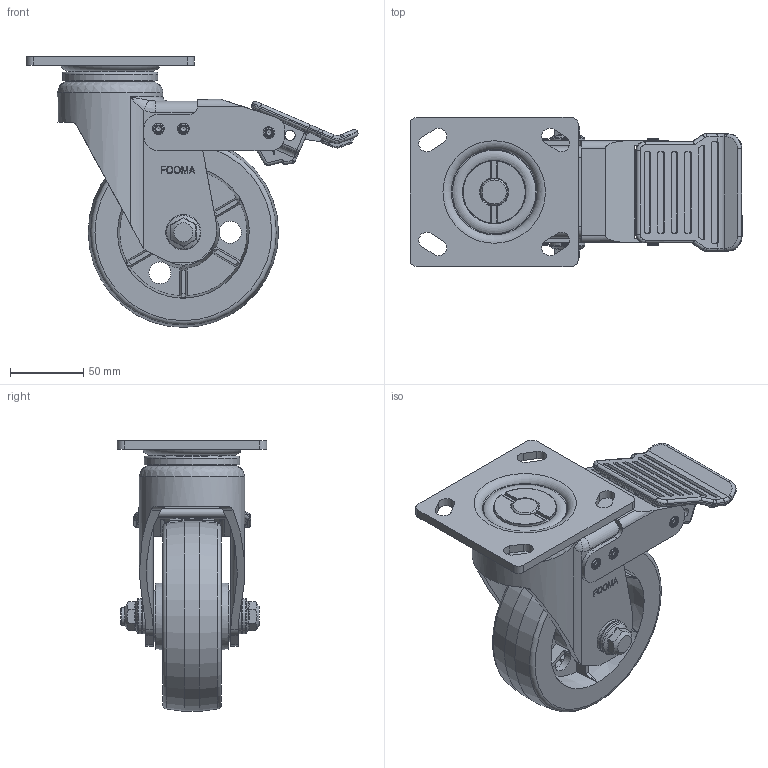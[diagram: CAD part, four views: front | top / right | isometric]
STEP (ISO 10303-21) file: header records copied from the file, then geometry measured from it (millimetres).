
FILE_DESCRIPTION((''),'2;1');
FILE_NAME('C:\Documents and Settings\Administrator\바탕 화면\3D STEP\GH-SERIES\GH-130\GH-130B-SF.stp','2010-12-27T14:24:54',('Administrator'),(''),'Autodesk Inventor 2009','Autodesk Inventor 2009','');
FILE_SCHEMA(('AUTOMOTIVE_DESIGN { 1 0 10303 214 1 1 1 1 }'));
Length unit declared in the file: millimetre
Products named in the file (1): GH-130B-SF
Bounding box: 226.77 x 102 x 184.98 mm (x, y, z)
Volume: 446384.6 mm3; surface area: 212448.6 mm2
Topology: 10 solids, 12 shells, 1264 faces, 3379 edges, 2134 vertices
Faces by surface type: plane 458, cylinder 357, bspline 271, torus 83, cone 75, sphere 20
Full cylindrical faces by diameter (mm): 3 x2, 4 x6, 6 x3, 6.1 x6, 6.5 x2, 7 x2, 8 x6, 12 x1, 15 x5, 15.2 x2, 18.5 x2, 21.5 x1, 22 x1, 24 x4, 29.9 x1, 30 x1, 30.5 x2, 31.615 x2, 35 x2, 35.02 x2, 44 x2, 48.961 x2, 61 x1, 62 x1, 63.14 x1, 65.14 x1, 72 x1, 130 x1
Entity records: 45345 total; most frequent: CARTESIAN_POINT 15889, ORIENTED_EDGE 6278, DIRECTION 5704, EDGE_CURVE 3139, AXIS2_PLACEMENT_3D 2122, VERTEX_POINT 2067, EDGE_LOOP 1528, VECTOR 1460
